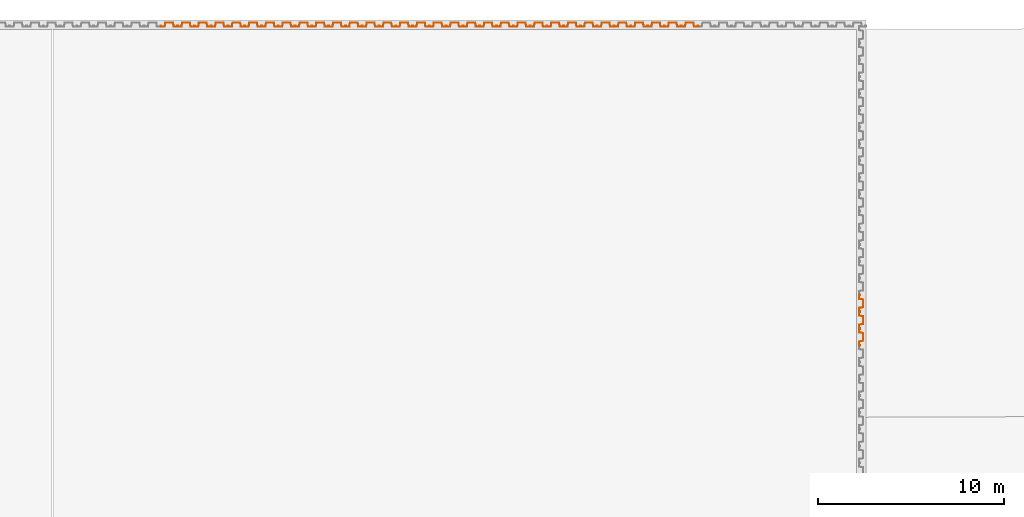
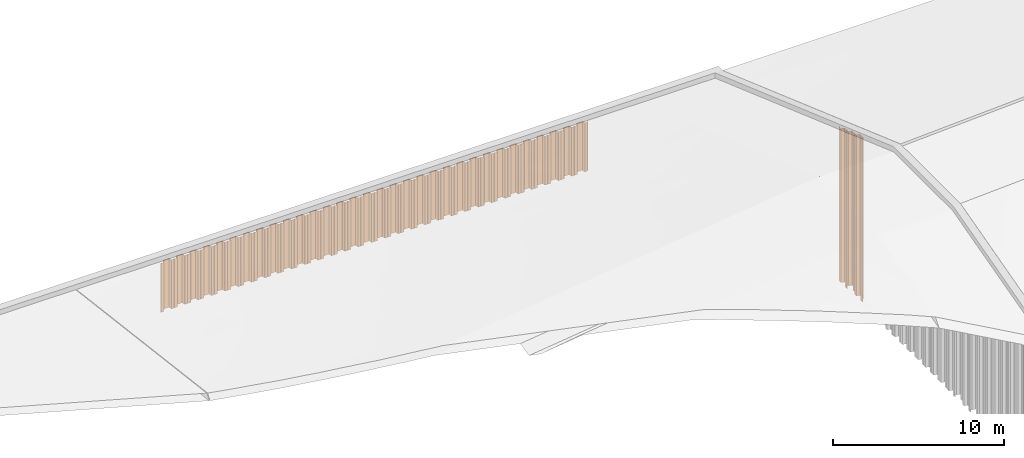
# One storey, part 28 of 32: 35 proxies.
"""IFC2X3 building model written with IfcOpenShell, lengths in millimetres."""

import ifcopenshell
import ifcopenshell.guid

model = None  # the IFC model being written
_history = None  # IfcOwnerHistory: only IFC2X3 demands one
_inside = {}  # id of a spatial element -> (the spatial element, [elements in it])
_under = {}  # id of a project, library or spatial element -> (it, [spatial elements below it])
_declared = {}  # id of a project -> (the project, [libraries it declares])
_typed = {}  # id of a type object -> (the type object, [elements of that type])
_made_of = {}  # id of a material, layer set ... -> (it, [elements and type objects made of it])


def new_model(schema):
    """Start an empty IFC model of exactly this schema.

    Asked for "IFC4X3", IfcOpenShell would pick the latest addendum, in which some entities
    have other attributes; the version numbers below select the first issue.
    IFC2X3 requires an IfcOwnerHistory on every rooted entity: one is made here for all.
    """
    global model, _history
    if schema == "IFC4X3":
        model = ifcopenshell.file(schema_version=(4, 3, 0, 0))
    else:
        model = ifcopenshell.file(schema=schema)
    _inside.clear()
    _under.clear()
    _declared.clear()
    _typed.clear()
    _made_of.clear()
    _history = None
    if model.schema == "IFC2X3":
        org = make("IfcOrganization", Name="unknown")
        user = make(
            "IfcPersonAndOrganization",
            ThePerson=make("IfcPerson", FamilyName="unknown"),
            TheOrganization=org,
        )
        app = make(
            "IfcApplication",
            ApplicationDeveloper=org,
            Version="unknown",
            ApplicationFullName="unknown",
            ApplicationIdentifier="unknown",
        )
        _history = make(
            "IfcOwnerHistory",
            OwningUser=user,
            OwningApplication=app,
            ChangeAction="ADDED",
            CreationDate=0,
        )
    return model


def make(cls, **values):
    """One entity of the class cls with the attributes given. An attribute that is None is left unset."""
    return model.create_entity(
        cls, **{name: value for name, value in values.items() if value is not None}
    )


def entity(cls, *values):
    """Any entity or typed value of the class cls, its attributes in the order of the schema. None: left unset."""
    e = model.create_entity(cls)
    for i, value in enumerate(values):
        if value is not None:
            e[i] = value
    return e


def rooted(cls, **values):
    """An entity with a GlobalId (a new one), such as an element, a storey or a relation."""
    return make(cls, GlobalId=ifcopenshell.guid.new(), OwnerHistory=_history, **values)


def si_unit(unit_type, name, prefix=None):
    """IfcSIUnit, for example si_unit("LENGTHUNIT", "METRE", prefix="MILLI")."""
    return make("IfcSIUnit", UnitType=unit_type, Prefix=prefix, Name=name)


def converted_unit(unit_type, name, factor, base, dimensions=None, offset=None):
    """IfcConversionBasedUnit, such as the inch: factor (a typed value) times the base unit."""
    return make(
        "IfcConversionBasedUnit"
        if offset is None
        else "IfcConversionBasedUnitWithOffset",
        ConversionOffset=offset,
        Dimensions=None
        if dimensions is None
        else entity("IfcDimensionalExponents", *dimensions),
        UnitType=unit_type,
        Name=name,
        ConversionFactor=make(
            "IfcMeasureWithUnit", ValueComponent=factor, UnitComponent=base
        ),
    )


def derived_unit(unit_type, elements):
    """IfcDerivedUnit: a product of units, each with its exponent."""
    return make(
        "IfcDerivedUnit",
        Elements=[
            make("IfcDerivedUnitElement", Unit=unit, Exponent=power)
            for unit, power in elements
        ],
        UnitType=unit_type,
    )


def assignment(units):
    """IfcUnitAssignment: the units of a project."""
    return None if units is None else make("IfcUnitAssignment", Units=units)


def point(xyz):
    """IfcCartesianPoint."""
    return None if xyz is None else make("IfcCartesianPoint", Coordinates=xyz)


def direction(xyz):
    """IfcDirection."""
    return None if xyz is None else make("IfcDirection", DirectionRatios=xyz)


def frame(location, z_axis=None, x_axis=None):
    """IfcAxis2Placement3D, a coordinate frame: its origin and axes. An axis left out is left unset."""
    return make(
        "IfcAxis2Placement3D",
        Location=point(location),
        Axis=direction(z_axis),
        RefDirection=direction(x_axis),
    )


def frame_2d(location, x_axis=None):
    """IfcAxis2Placement2D, a coordinate frame in the plane: its origin and x axis."""
    return make(
        "IfcAxis2Placement2D", Location=point(location), RefDirection=direction(x_axis)
    )


def origin():
    """The frame at (0, 0, 0) with its axes left unset."""
    return frame((0.0, 0.0, 0.0))


def place(relative_to, where):
    """IfcLocalPlacement: puts the frame where relative to a parent placement (None: the world)."""
    return make(
        "IfcLocalPlacement", PlacementRelTo=relative_to, RelativePlacement=where
    )


def context(
    kind, dimensions, precision=None, world=None, true_north=None, identifier=None
):
    """IfcGeometricRepresentationContext, for example the 3D "Model" context."""
    return make(
        "IfcGeometricRepresentationContext",
        ContextIdentifier=identifier,
        ContextType=kind,
        CoordinateSpaceDimension=dimensions,
        Precision=precision,
        WorldCoordinateSystem=world,
        TrueNorth=true_north,
    )


def subcontext(parent, identifier, kind, view, scale=None):
    """IfcGeometricRepresentationSubContext, for example "Body" below "Model"."""
    return make(
        "IfcGeometricRepresentationSubContext",
        ContextIdentifier=identifier,
        ContextType=kind,
        ParentContext=parent,
        TargetScale=scale,
        TargetView=view,
    )


def project(units=None, contexts=None):
    """IfcProject with its units and contexts."""
    return rooted(
        "IfcProject",
        Name="project",
        RepresentationContexts=contexts,
        UnitsInContext=assignment(units),
    )


def spatial(cls, under=None, at=None, **own):
    """A site, building, storey or space (cls), placed at a placement, below another one or the project."""
    s = rooted(cls, ObjectPlacement=at, **own)
    if under is not None:
        _under.setdefault(under.id(), (under, []))[1].append(s)
    return s


def polyline(points):
    """IfcPolyline through the points."""
    return make("IfcPolyline", Points=[point(p) for p in points])


def circle_curve(where, radius):
    """IfcCircle in the frame where."""
    return make("IfcCircle", Position=where, Radius=radius)


def parameter(value):
    """IfcParameterValue: where a trimmed curve begins or ends, as a parameter of its basis curve."""
    return model.create_entity("IfcParameterValue", value)


def trimmed(basis, trim1, trim2, sense, master):
    """IfcTrimmedCurve: the piece of a basis curve between two trims."""
    return make(
        "IfcTrimmedCurve",
        BasisCurve=basis,
        Trim1=trim1,
        Trim2=trim2,
        SenseAgreement=sense,
        MasterRepresentation=master,
    )


def segment(curve, same_sense, transition):
    """IfcCompositeCurveSegment."""
    return make(
        "IfcCompositeCurveSegment",
        Transition=transition,
        SameSense=same_sense,
        ParentCurve=curve,
    )


def composite_curve(segments, self_intersect=None):
    """IfcCompositeCurve: segments joined end to end."""
    return make("IfcCompositeCurve", Segments=segments, SelfIntersect=self_intersect)


def outline(outer, holes=None, kind="AREA"):
    """IfcArbitraryClosedProfileDef: a profile drawn as a closed curve; with holes, ...WithVoids."""
    if holes is None:
        return make("IfcArbitraryClosedProfileDef", ProfileType=kind, OuterCurve=outer)
    return make(
        "IfcArbitraryProfileDefWithVoids",
        ProfileType=kind,
        OuterCurve=outer,
        InnerCurves=holes,
    )


def extrude(swept, where, along, depth):
    """IfcExtrudedAreaSolid: the profile swept, set in the frame where, extruded along a direction by depth."""
    return make(
        "IfcExtrudedAreaSolid",
        SweptArea=swept,
        Position=where,
        ExtrudedDirection=direction(along),
        Depth=depth,
    )


def shape(context_of_items, identifier, shape_type, items):
    """IfcShapeRepresentation: the items that make up one representation, for example the "Body"."""
    return make(
        "IfcShapeRepresentation",
        ContextOfItems=context_of_items,
        RepresentationIdentifier=identifier,
        RepresentationType=shape_type,
        Items=items,
    )


def source(mapping_origin, context_of_items, identifier, shape_type, items):
    """IfcRepresentationMap: a shape defined once, which mapped items show again and again."""
    return make(
        "IfcRepresentationMap",
        MappingOrigin=mapping_origin,
        MappedRepresentation=shape(context_of_items, identifier, shape_type, items),
    )


def transform(
    local_origin,
    x_axis=None,
    y_axis=None,
    z_axis=None,
    scale=None,
    scale2=None,
    scale3=None,
    uniform=True,
):
    """IfcCartesianTransformationOperator3D, or its non-uniform kind. x_axis, y_axis, z_axis: its Axis1, 2, 3."""
    if uniform:
        return make(
            "IfcCartesianTransformationOperator3D",
            Axis1=direction(x_axis),
            Axis2=direction(y_axis),
            LocalOrigin=point(local_origin),
            Scale=scale,
            Axis3=direction(z_axis),
        )
    return make(
        "IfcCartesianTransformationOperator3DnonUniform",
        Axis1=direction(x_axis),
        Axis2=direction(y_axis),
        LocalOrigin=point(local_origin),
        Scale=scale,
        Axis3=direction(z_axis),
        Scale2=scale2,
        Scale3=scale3,
    )


def mapped(mapping_source, mapping_target):
    """IfcMappedItem: shows the shape of a source again, moved by a transform."""
    return make(
        "IfcMappedItem", MappingSource=mapping_source, MappingTarget=mapping_target
    )


def made_of(thing, what):
    """Note that an element or type object is made of a material, layer set ...; save() writes the relation."""
    if what is not None:
        _made_of.setdefault(what.id(), (what, []))[1].append(thing)
    return thing


def type_object(cls, material=None, **own):
    """A type object (cls), such as IfcWallType, which elements share."""
    return made_of(rooted(cls, **own), material)


def type_shapes(of_type, sources):
    """Give a type object the sources (RepresentationMaps) that its elements show as mapped items."""
    of_type.RepresentationMaps = sources


def element(
    cls,
    number,
    at=None,
    inside=None,
    cuts=None,
    type_object=None,
    material=None,
    context=None,
    identifier="Body",
    shape_type=None,
    held_by="IfcProductDefinitionShape",
    body=None,
    shapes=None,
    **own,
):
    """One element of the class cls, such as IfcWall. Its Tag is "e" and its number.

    at: its placement. inside: the storey or other place that contains it. cuts: it is an
    opening in that element (IfcRelVoidsElement). A single representation is given by context,
    identifier, shape_type and body (its items); several are given by shapes. held_by: the class
    of the entity that holds the representations. save() writes the other relations.
    """
    e = rooted(cls, Tag="e%d" % number, ObjectPlacement=at, **own)
    if body is not None:
        shapes = [shape(context, identifier, shape_type, body)]
    if shapes is not None:
        e.Representation = make(held_by, Representations=shapes)
    if inside is not None:
        _inside.setdefault(inside.id(), (inside, []))[1].append(e)
    if cuts is not None:
        rooted(
            "IfcRelVoidsElement", RelatingBuildingElement=cuts, RelatedOpeningElement=e
        )
    if type_object is not None:
        _typed.setdefault(type_object.id(), (type_object, []))[1].append(e)
    return made_of(e, material)


def aggregate(whole, parts):
    """IfcRelAggregates: a whole, such as a stair, and the parts it consists of."""
    return rooted("IfcRelAggregates", RelatingObject=whole, RelatedObjects=parts)


def save(model, path):
    """Write the relations noted so far, then the file.

    IfcRelAggregates (storeys below a building ...), IfcRelContainedInSpatialStructure (elements
    in a storey), IfcRelDefinesByType, IfcRelAssociatesMaterial and IfcRelDeclares: one each for
    every whole, place, type object, material and project.
    """
    for whole, parts in _under.values():
        aggregate(whole, parts)
    for where, things in _inside.values():
        rooted(
            "IfcRelContainedInSpatialStructure",
            RelatedElements=things,
            RelatingStructure=where,
        )
    for kind, things in _typed.values():
        rooted("IfcRelDefinesByType", RelatedObjects=things, RelatingType=kind)
    for what, things in _made_of.values():
        rooted("IfcRelAssociatesMaterial", RelatedObjects=things, RelatingMaterial=what)
    for by, libraries in _declared.values():
        rooted("IfcRelDeclares", RelatingContext=by, RelatedDefinitions=libraries)
    model.write(path)


model = new_model("IFC2X3")

# Units and contexts
model_context = context("Model", 3, precision=0.01, world=origin(), true_north=direction((6.12303176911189e-17, 1.0)))
body_context = subcontext(model_context, "Body", "Model", "MODEL_VIEW")
ifc_project = project(units=[si_unit("LENGTHUNIT", "METRE", prefix="MILLI"), si_unit("AREAUNIT", "SQUARE_METRE"), si_unit("VOLUMEUNIT", "CUBIC_METRE"), converted_unit("PLANEANGLEUNIT", "DEGREE", entity("IfcRatioMeasure", 0.0174532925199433), si_unit("PLANEANGLEUNIT", "RADIAN"), dimensions=[0, 0, 0, 0, 0, 0, 0]), si_unit("MASSUNIT", "GRAM", prefix="KILO"), derived_unit("MASSDENSITYUNIT", [(si_unit("MASSUNIT", "GRAM", prefix="KILO"), 1), (si_unit("LENGTHUNIT", "METRE"), -3)]), si_unit("TIMEUNIT", "SECOND"), si_unit("FREQUENCYUNIT", "HERTZ"), si_unit("THERMODYNAMICTEMPERATUREUNIT", "DEGREE_CELSIUS"), derived_unit("THERMALTRANSMITTANCEUNIT", [(si_unit("MASSUNIT", "GRAM", prefix="KILO"), 1), (si_unit("THERMODYNAMICTEMPERATUREUNIT", "KELVIN"), -1), (si_unit("TIMEUNIT", "SECOND"), -3)]), derived_unit("VOLUMETRICFLOWRATEUNIT", [(si_unit("LENGTHUNIT", "METRE"), 3), (si_unit("TIMEUNIT", "SECOND"), -1)]), si_unit("ELECTRICCURRENTUNIT", "AMPERE"), si_unit("ELECTRICVOLTAGEUNIT", "VOLT"), si_unit("POWERUNIT", "WATT"), si_unit("FORCEUNIT", "NEWTON", prefix="KILO"), si_unit("ILLUMINANCEUNIT", "LUX"), si_unit("LUMINOUSFLUXUNIT", "LUMEN"), si_unit("LUMINOUSINTENSITYUNIT", "CANDELA"), derived_unit("USERDEFINED", [(si_unit("MASSUNIT", "GRAM", prefix="KILO"), -1), (si_unit("LENGTHUNIT", "METRE"), -2), (si_unit("TIMEUNIT", "SECOND"), 3), (si_unit("LUMINOUSFLUXUNIT", "LUMEN"), 1)]), derived_unit("LINEARVELOCITYUNIT", [(si_unit("LENGTHUNIT", "METRE"), 1), (si_unit("TIMEUNIT", "SECOND"), -1)]), si_unit("PRESSUREUNIT", "PASCAL"), derived_unit("USERDEFINED", [(si_unit("LENGTHUNIT", "METRE"), -2), (si_unit("MASSUNIT", "GRAM", prefix="KILO"), 1), (si_unit("TIMEUNIT", "SECOND"), -2)])], contexts=[model_context])

# Site, building, storey
site_placement = place(None, origin())
site = spatial("IfcSite", under=ifc_project, at=site_placement, Name="Default", CompositionType="ELEMENT")
building_placement = place(site_placement, origin())
building = spatial("IfcBuilding", under=site, at=building_placement, CompositionType="ELEMENT")
storey_placement = place(building_placement, origin())
storey = spatial("IfcBuildingStorey", under=building, at=storey_placement, Name="矢板", CompositionType="ELEMENT", Elevation=0.0)

# Proxies
building_element_proxy_type_1 = type_object("IfcBuildingElementProxyType", Name="鋼矢板10H型", PredefinedType="NOTDEFINED")
shared_shape_1 = source(origin(), body_context, "Body", "SweptSolid", [
    extrude(outline(composite_curve([segment(trimmed(circle_curve(frame_2d((85.3662976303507, 306.644432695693), x_axis=(0.422618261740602, 0.906307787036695)), 13.885714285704), [parameter(24.9999999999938)], [parameter(90.0000000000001)], True, "PARAMETER"), True, "CONTINUOUS"), segment(polyline([(72.7815666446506, 312.512789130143), (9.8129512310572, 177.476157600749)]), True, "CONTINUOUS"), segment(trimmed(circle_curve(frame_2d((29.3891994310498, 168.347603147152), x_axis=(0.422618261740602, 0.906307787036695)), 21.6), [parameter(90.0000000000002)], [parameter(168.69006752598)], True, "PARAMETER"), True, "CONTINUOUS"), segment(polyline([(16.598697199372, 150.941769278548), (175.329723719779, 34.2998683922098)]), True, "CONTINUOUS"), segment(trimmed(circle_curve(frame_2d((168.93447260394, 25.596951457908), x_axis=(0.422618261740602, 0.906307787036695)), 10.7999999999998), [parameter(270.0)], [parameter(348.690067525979)], True, "PARAMETER"), False, "CONTINUOUS"), segment(polyline([(178.722596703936, 21.0326742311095), (18.2974003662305, -323.000269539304)]), True, "CONTINUOUS"), segment(trimmed(circle_curve(frame_2d((8.50927626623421, -318.435992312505), x_axis=(0.422618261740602, 0.906307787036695)), 10.8), [parameter(191.30993247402)], [parameter(269.999999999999)], True, "PARAMETER"), False, "CONTINUOUS"), segment(polyline([(5.95324328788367, -328.929166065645), (-185.429973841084, -282.310113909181)]), True, "CONTINUOUS"), segment(trimmed(circle_curve(frame_2d((-190.542039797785, -303.296461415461), x_axis=(0.422618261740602, 0.906307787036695)), 21.6000000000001), [parameter(11.3099324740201)], [parameter(90.0000000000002)], True, "PARAMETER"), True, "CONTINUOUS"), segment(polyline([(-210.118287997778, -294.167906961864), (-290.330886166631, -466.184378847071)]), True, "CONTINUOUS"), segment(trimmed(circle_curve(frame_2d((-270.754637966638, -475.312933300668), x_axis=(0.422618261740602, 0.906307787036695)), 21.6), [parameter(90.0000000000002)], [parameter(269.999999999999)], True, "PARAMETER"), True, "CONTINUOUS"), segment(polyline([(-251.178389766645, -484.441487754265), (-249.065298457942, -479.909948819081)]), True, "CONTINUOUS"), segment(polyline([(-249.065298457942, -479.909948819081), (-258.853422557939, -475.345671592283)]), True, "CONTINUOUS"), segment(polyline([(-258.853422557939, -475.345671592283), (-260.966513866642, -479.877210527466)]), True, "CONTINUOUS"), segment(trimmed(circle_curve(frame_2d((-270.754637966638, -475.312933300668), x_axis=(0.422618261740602, 0.906307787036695)), 10.8), [parameter(90.0000000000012)], [parameter(270.0)], True, "PARAMETER"), False, "CONTINUOUS"), segment(polyline([(-280.542762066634, -470.748656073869), (-200.330163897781, -298.732184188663)]), True, "CONTINUOUS"), segment(trimmed(circle_curve(frame_2d((-190.542039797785, -303.296461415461), x_axis=(0.422618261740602, 0.906307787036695)), 10.8), [parameter(11.3099324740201)], [parameter(89.9999999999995)], True, "PARAMETER"), False, "CONTINUOUS"), segment(polyline([(-187.986006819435, -292.803287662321), (3.39721030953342, -339.422339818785)]), True, "CONTINUOUS"), segment(trimmed(circle_curve(frame_2d((8.50927626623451, -318.435992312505), x_axis=(0.422618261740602, 0.906307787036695)), 21.6), [parameter(191.30993247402)], [parameter(270.0)], True, "PARAMETER"), True, "CONTINUOUS"), segment(polyline([(28.0855244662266, -327.564546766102), (188.510720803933, 16.4683970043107)]), True, "CONTINUOUS"), segment(trimmed(circle_curve(frame_2d((168.93447260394, 25.5969514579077), x_axis=(0.422618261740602, 0.906307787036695)), 21.6), [parameter(270.0)], [parameter(348.69006752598)], True, "PARAMETER"), True, "CONTINUOUS"), segment(polyline([(181.724974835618, 43.0027853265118), (22.9939483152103, 159.644686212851)]), True, "CONTINUOUS"), segment(trimmed(circle_curve(frame_2d((29.3891994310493, 168.347603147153), x_axis=(0.422618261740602, 0.906307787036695)), 10.7999999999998), [parameter(89.9999999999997)], [parameter(168.690067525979)], True, "PARAMETER"), False, "CONTINUOUS"), segment(polyline([(19.6010753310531, 172.911880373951), (82.5696907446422, 307.948511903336)]), True, "CONTINUOUS"), segment(trimmed(circle_curve(frame_2d((85.3662976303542, 306.64443269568), x_axis=(0.422618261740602, 0.906307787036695)), 3.08571428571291), [parameter(25.0000000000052)], [parameter(90.0000000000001)], True, "PARAMETER"), False, "CONTINUOUS"), segment(polyline([(85.3662976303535, 309.730146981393), (122.220231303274, 309.730146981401)]), True, "CONTINUOUS"), segment(trimmed(circle_curve(frame_2d((122.220231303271, 323.615861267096), x_axis=(0.422618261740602, 0.906307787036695)), 13.8857142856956), [parameter(205.000000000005)], [parameter(270.0)], True, "PARAMETER"), True, "CONTINUOUS"), segment(polyline([(134.804962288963, 317.747504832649), (141.079261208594, 331.202782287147)]), True, "CONTINUOUS"), segment(trimmed(circle_curve(frame_2d((121.503013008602, 340.331336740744), x_axis=(0.422618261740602, 0.906307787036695)), 21.6), [parameter(270.0)], [parameter(90.0000000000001)], True, "PARAMETER"), True, "CONTINUOUS"), segment(polyline([(101.926764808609, 349.459891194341), (99.8136734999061, 344.928352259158)]), True, "CONTINUOUS"), segment(polyline([(99.8136734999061, 344.928352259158), (109.601797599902, 340.364075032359)]), True, "CONTINUOUS"), segment(polyline([(109.601797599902, 340.364075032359), (111.714888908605, 344.895613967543)]), True, "CONTINUOUS"), segment(trimmed(circle_curve(frame_2d((121.503013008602, 340.331336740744), x_axis=(0.422618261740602, 0.906307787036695)), 10.8), [parameter(270.0)], [parameter(89.9999999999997)], True, "PARAMETER"), False, "CONTINUOUS"), segment(polyline([(131.291137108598, 335.767059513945), (125.01683818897, 322.311782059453)]), True, "CONTINUOUS"), segment(trimmed(circle_curve(frame_2d((122.220231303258, 323.615861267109), x_axis=(0.422618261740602, 0.906307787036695)), 3.08571428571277), [parameter(204.999999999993)], [parameter(270.0)], True, "PARAMETER"), False, "CONTINUOUS"), segment(polyline([(122.220231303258, 320.530146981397), (85.3662976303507, 320.530146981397)]), True, "CONTINUOUS")], self_intersect=False)), frame((95.205667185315, -48.8888888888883, -3500.0), z_axis=(0.0, 0.0, -1.0), x_axis=(0.4226182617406, 0.906307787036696, 0.0)), (0.0, 0.0, -1.0), 3500.0),
])
type_shapes(building_element_proxy_type_1, [shared_shape_1])
for number, where in (
    (1, (139297.5, 28702.0, 7600.0)),
    (2, (138397.5, 28702.0, 7600.0)),
    (3, (137497.5, 28702.0, 7600.0)),
    (4, (136597.5, 28702.0, 7600.0)),
    (5, (135697.5, 28702.0, 7600.0)),
    (6, (134797.5, 28702.0, 7600.0)),
    (7, (133897.5, 28702.0, 7600.0)),
    (8, (132997.5, 28702.0, 7600.0)),
    (9, (132097.5, 28702.0, 7600.0)),
    (10, (131197.5, 28702.0, 7600.0)),
    (11, (130297.5, 28702.0, 7600.0)),
    (12, (129397.5, 28702.0, 7600.0)),
    (13, (128497.5, 28702.0, 7600.0)),
    (14, (127597.5, 28702.0, 7600.0)),
    (15, (126697.5, 28702.0, 7600.0)),
    (16, (125797.5, 28702.0, 7600.0)),
    (17, (124897.5, 28702.0, 7600.0)),
    (18, (123997.5, 28702.0, 7600.0)),
    (19, (123097.5, 28702.0, 7600.0)),
    (20, (122197.5, 28702.0, 7600.0)),
    (21, (121297.5, 28702.0, 7600.0)),
    (22, (120397.5, 28702.0, 7600.0)),
    (23, (119497.5, 28702.0, 7600.0)),
    (24, (118597.5, 28702.0, 7600.0)),
    (25, (117697.5, 28702.0, 7600.0)),
    (26, (116797.5, 28702.0, 7600.0)),
    (27, (115897.5, 28702.0, 7600.0)),
    (28, (114997.5, 28702.0, 7600.0)),
    (29, (114097.5, 28702.0, 7600.0)),
    (30, (113197.5, 28702.0, 7600.0)),
    (31, (112297.5, 28702.0, 7600.0)),
    (32, (111397.5, 28702.0, 7600.0)),
):
    element("IfcBuildingElementProxy", number, at=place(storey_placement, frame(where)), inside=storey, type_object=building_element_proxy_type_1, Name="鋼矢板10H型:鋼矢板10H型", ObjectType="鋼矢板10H型:鋼矢板10H型", context=body_context, shape_type="MappedRepresentation", body=[
        mapped(shared_shape_1, transform((0.0, 0.0, 0.0), scale=1.0)),
    ])
building_element_proxy_type_2 = type_object("IfcBuildingElementProxyType", Name="鋼矢板10H型", PredefinedType="NOTDEFINED")
shared_shape_2 = source(origin(), body_context, "Body", "SweptSolid", [
    extrude(outline(composite_curve([segment(trimmed(circle_curve(frame_2d((85.3662976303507, 306.644432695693), x_axis=(0.422618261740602, 0.906307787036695)), 13.885714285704), [parameter(24.9999999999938)], [parameter(90.0000000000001)], True, "PARAMETER"), True, "CONTINUOUS"), segment(polyline([(72.7815666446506, 312.512789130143), (9.8129512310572, 177.476157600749)]), True, "CONTINUOUS"), segment(trimmed(circle_curve(frame_2d((29.3891994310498, 168.347603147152), x_axis=(0.422618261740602, 0.906307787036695)), 21.6), [parameter(90.0000000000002)], [parameter(168.69006752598)], True, "PARAMETER"), True, "CONTINUOUS"), segment(polyline([(16.598697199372, 150.941769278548), (175.329723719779, 34.2998683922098)]), True, "CONTINUOUS"), segment(trimmed(circle_curve(frame_2d((168.93447260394, 25.596951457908), x_axis=(0.422618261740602, 0.906307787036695)), 10.7999999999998), [parameter(270.0)], [parameter(348.690067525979)], True, "PARAMETER"), False, "CONTINUOUS"), segment(polyline([(178.722596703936, 21.0326742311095), (18.2974003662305, -323.000269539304)]), True, "CONTINUOUS"), segment(trimmed(circle_curve(frame_2d((8.50927626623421, -318.435992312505), x_axis=(0.422618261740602, 0.906307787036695)), 10.8), [parameter(191.30993247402)], [parameter(269.999999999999)], True, "PARAMETER"), False, "CONTINUOUS"), segment(polyline([(5.95324328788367, -328.929166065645), (-185.429973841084, -282.310113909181)]), True, "CONTINUOUS"), segment(trimmed(circle_curve(frame_2d((-190.542039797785, -303.296461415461), x_axis=(0.422618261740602, 0.906307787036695)), 21.6000000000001), [parameter(11.3099324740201)], [parameter(90.0000000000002)], True, "PARAMETER"), True, "CONTINUOUS"), segment(polyline([(-210.118287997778, -294.167906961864), (-290.330886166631, -466.184378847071)]), True, "CONTINUOUS"), segment(trimmed(circle_curve(frame_2d((-270.754637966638, -475.312933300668), x_axis=(0.422618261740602, 0.906307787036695)), 21.6), [parameter(90.0000000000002)], [parameter(269.999999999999)], True, "PARAMETER"), True, "CONTINUOUS"), segment(polyline([(-251.178389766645, -484.441487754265), (-249.065298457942, -479.909948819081)]), True, "CONTINUOUS"), segment(polyline([(-249.065298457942, -479.909948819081), (-258.853422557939, -475.345671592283)]), True, "CONTINUOUS"), segment(polyline([(-258.853422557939, -475.345671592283), (-260.966513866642, -479.877210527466)]), True, "CONTINUOUS"), segment(trimmed(circle_curve(frame_2d((-270.754637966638, -475.312933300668), x_axis=(0.422618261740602, 0.906307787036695)), 10.8), [parameter(90.0000000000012)], [parameter(270.0)], True, "PARAMETER"), False, "CONTINUOUS"), segment(polyline([(-280.542762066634, -470.748656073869), (-200.330163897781, -298.732184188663)]), True, "CONTINUOUS"), segment(trimmed(circle_curve(frame_2d((-190.542039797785, -303.296461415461), x_axis=(0.422618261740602, 0.906307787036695)), 10.8), [parameter(11.3099324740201)], [parameter(89.9999999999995)], True, "PARAMETER"), False, "CONTINUOUS"), segment(polyline([(-187.986006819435, -292.803287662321), (3.39721030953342, -339.422339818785)]), True, "CONTINUOUS"), segment(trimmed(circle_curve(frame_2d((8.50927626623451, -318.435992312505), x_axis=(0.422618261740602, 0.906307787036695)), 21.6), [parameter(191.30993247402)], [parameter(270.0)], True, "PARAMETER"), True, "CONTINUOUS"), segment(polyline([(28.0855244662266, -327.564546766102), (188.510720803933, 16.4683970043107)]), True, "CONTINUOUS"), segment(trimmed(circle_curve(frame_2d((168.93447260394, 25.5969514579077), x_axis=(0.422618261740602, 0.906307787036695)), 21.6), [parameter(270.0)], [parameter(348.69006752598)], True, "PARAMETER"), True, "CONTINUOUS"), segment(polyline([(181.724974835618, 43.0027853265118), (22.9939483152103, 159.644686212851)]), True, "CONTINUOUS"), segment(trimmed(circle_curve(frame_2d((29.3891994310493, 168.347603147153), x_axis=(0.422618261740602, 0.906307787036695)), 10.7999999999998), [parameter(89.9999999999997)], [parameter(168.690067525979)], True, "PARAMETER"), False, "CONTINUOUS"), segment(polyline([(19.6010753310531, 172.911880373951), (82.5696907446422, 307.948511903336)]), True, "CONTINUOUS"), segment(trimmed(circle_curve(frame_2d((85.3662976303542, 306.64443269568), x_axis=(0.422618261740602, 0.906307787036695)), 3.08571428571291), [parameter(25.0000000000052)], [parameter(90.0000000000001)], True, "PARAMETER"), False, "CONTINUOUS"), segment(polyline([(85.3662976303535, 309.730146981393), (122.220231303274, 309.730146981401)]), True, "CONTINUOUS"), segment(trimmed(circle_curve(frame_2d((122.220231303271, 323.615861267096), x_axis=(0.422618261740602, 0.906307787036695)), 13.8857142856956), [parameter(205.000000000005)], [parameter(270.0)], True, "PARAMETER"), True, "CONTINUOUS"), segment(polyline([(134.804962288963, 317.747504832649), (141.079261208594, 331.202782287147)]), True, "CONTINUOUS"), segment(trimmed(circle_curve(frame_2d((121.503013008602, 340.331336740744), x_axis=(0.422618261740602, 0.906307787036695)), 21.6), [parameter(270.0)], [parameter(90.0000000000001)], True, "PARAMETER"), True, "CONTINUOUS"), segment(polyline([(101.926764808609, 349.459891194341), (99.8136734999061, 344.928352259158)]), True, "CONTINUOUS"), segment(polyline([(99.8136734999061, 344.928352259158), (109.601797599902, 340.364075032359)]), True, "CONTINUOUS"), segment(polyline([(109.601797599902, 340.364075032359), (111.714888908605, 344.895613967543)]), True, "CONTINUOUS"), segment(trimmed(circle_curve(frame_2d((121.503013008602, 340.331336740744), x_axis=(0.422618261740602, 0.906307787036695)), 10.8), [parameter(270.0)], [parameter(89.9999999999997)], True, "PARAMETER"), False, "CONTINUOUS"), segment(polyline([(131.291137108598, 335.767059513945), (125.01683818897, 322.311782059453)]), True, "CONTINUOUS"), segment(trimmed(circle_curve(frame_2d((122.220231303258, 323.615861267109), x_axis=(0.422618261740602, 0.906307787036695)), 3.08571428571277), [parameter(204.999999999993)], [parameter(270.0)], True, "PARAMETER"), False, "CONTINUOUS"), segment(polyline([(122.220231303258, 320.530146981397), (85.3662976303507, 320.530146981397)]), True, "CONTINUOUS")], self_intersect=False)), frame((95.205667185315, -48.8888888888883, -11000.0), z_axis=(0.0, 0.0, -1.0), x_axis=(0.4226182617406, 0.906307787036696, 0.0)), (0.0, 0.0, -1.0), 11000.0),
])
type_shapes(building_element_proxy_type_2, [shared_shape_2])
for number, where, z_axis, x_axis in (
    (33, (148500.0, 13751.0, 12949.0), (0.0, 0.0, 1.0), (0.0, -1.0, 0.0)),
    (34, (148500.0, 12851.0, 13267.0), (0.0, 0.0, 1.0), (0.0, -1.0, 0.0)),
):
    element("IfcBuildingElementProxy", number, at=place(storey_placement, frame(where, z_axis=z_axis, x_axis=x_axis)), inside=storey, type_object=building_element_proxy_type_2, Name="鋼矢板10H型:鋼矢板10H型", ObjectType="鋼矢板10H型:鋼矢板10H型", context=body_context, shape_type="MappedRepresentation", body=[
        mapped(shared_shape_2, transform((0.0, 0.0, 0.0), scale=1.0)),
    ])
building_element_proxy_type_3 = type_object("IfcBuildingElementProxyType", Name="鋼矢板10H型", PredefinedType="NOTDEFINED")
shared_shape_3 = source(origin(), body_context, "Body", "SweptSolid", [
    extrude(outline(composite_curve([segment(trimmed(circle_curve(frame_2d((85.3662976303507, 306.644432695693), x_axis=(0.422618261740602, 0.906307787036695)), 13.885714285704), [parameter(24.9999999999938)], [parameter(90.0000000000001)], True, "PARAMETER"), True, "CONTINUOUS"), segment(polyline([(72.7815666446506, 312.512789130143), (9.8129512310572, 177.476157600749)]), True, "CONTINUOUS"), segment(trimmed(circle_curve(frame_2d((29.3891994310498, 168.347603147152), x_axis=(0.422618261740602, 0.906307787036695)), 21.6), [parameter(90.0000000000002)], [parameter(168.69006752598)], True, "PARAMETER"), True, "CONTINUOUS"), segment(polyline([(16.598697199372, 150.941769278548), (175.329723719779, 34.2998683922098)]), True, "CONTINUOUS"), segment(trimmed(circle_curve(frame_2d((168.93447260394, 25.596951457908), x_axis=(0.422618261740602, 0.906307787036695)), 10.7999999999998), [parameter(270.0)], [parameter(348.690067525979)], True, "PARAMETER"), False, "CONTINUOUS"), segment(polyline([(178.722596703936, 21.0326742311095), (18.2974003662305, -323.000269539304)]), True, "CONTINUOUS"), segment(trimmed(circle_curve(frame_2d((8.50927626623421, -318.435992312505), x_axis=(0.422618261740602, 0.906307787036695)), 10.8), [parameter(191.30993247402)], [parameter(269.999999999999)], True, "PARAMETER"), False, "CONTINUOUS"), segment(polyline([(5.95324328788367, -328.929166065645), (-185.429973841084, -282.310113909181)]), True, "CONTINUOUS"), segment(trimmed(circle_curve(frame_2d((-190.542039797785, -303.296461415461), x_axis=(0.422618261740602, 0.906307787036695)), 21.6000000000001), [parameter(11.3099324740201)], [parameter(90.0000000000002)], True, "PARAMETER"), True, "CONTINUOUS"), segment(polyline([(-210.118287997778, -294.167906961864), (-290.330886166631, -466.184378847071)]), True, "CONTINUOUS"), segment(trimmed(circle_curve(frame_2d((-270.754637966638, -475.312933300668), x_axis=(0.422618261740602, 0.906307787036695)), 21.6), [parameter(90.0000000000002)], [parameter(269.999999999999)], True, "PARAMETER"), True, "CONTINUOUS"), segment(polyline([(-251.178389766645, -484.441487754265), (-249.065298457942, -479.909948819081)]), True, "CONTINUOUS"), segment(polyline([(-249.065298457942, -479.909948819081), (-258.853422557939, -475.345671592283)]), True, "CONTINUOUS"), segment(polyline([(-258.853422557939, -475.345671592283), (-260.966513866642, -479.877210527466)]), True, "CONTINUOUS"), segment(trimmed(circle_curve(frame_2d((-270.754637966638, -475.312933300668), x_axis=(0.422618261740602, 0.906307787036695)), 10.8), [parameter(90.0000000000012)], [parameter(270.0)], True, "PARAMETER"), False, "CONTINUOUS"), segment(polyline([(-280.542762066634, -470.748656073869), (-200.330163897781, -298.732184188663)]), True, "CONTINUOUS"), segment(trimmed(circle_curve(frame_2d((-190.542039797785, -303.296461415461), x_axis=(0.422618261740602, 0.906307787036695)), 10.8), [parameter(11.3099324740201)], [parameter(89.9999999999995)], True, "PARAMETER"), False, "CONTINUOUS"), segment(polyline([(-187.986006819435, -292.803287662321), (3.39721030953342, -339.422339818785)]), True, "CONTINUOUS"), segment(trimmed(circle_curve(frame_2d((8.50927626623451, -318.435992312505), x_axis=(0.422618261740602, 0.906307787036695)), 21.6), [parameter(191.30993247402)], [parameter(270.0)], True, "PARAMETER"), True, "CONTINUOUS"), segment(polyline([(28.0855244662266, -327.564546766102), (188.510720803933, 16.4683970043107)]), True, "CONTINUOUS"), segment(trimmed(circle_curve(frame_2d((168.93447260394, 25.5969514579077), x_axis=(0.422618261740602, 0.906307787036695)), 21.6), [parameter(270.0)], [parameter(348.69006752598)], True, "PARAMETER"), True, "CONTINUOUS"), segment(polyline([(181.724974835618, 43.0027853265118), (22.9939483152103, 159.644686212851)]), True, "CONTINUOUS"), segment(trimmed(circle_curve(frame_2d((29.3891994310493, 168.347603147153), x_axis=(0.422618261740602, 0.906307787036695)), 10.7999999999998), [parameter(89.9999999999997)], [parameter(168.690067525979)], True, "PARAMETER"), False, "CONTINUOUS"), segment(polyline([(19.6010753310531, 172.911880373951), (82.5696907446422, 307.948511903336)]), True, "CONTINUOUS"), segment(trimmed(circle_curve(frame_2d((85.3662976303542, 306.64443269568), x_axis=(0.422618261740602, 0.906307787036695)), 3.08571428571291), [parameter(25.0000000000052)], [parameter(90.0000000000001)], True, "PARAMETER"), False, "CONTINUOUS"), segment(polyline([(85.3662976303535, 309.730146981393), (122.220231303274, 309.730146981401)]), True, "CONTINUOUS"), segment(trimmed(circle_curve(frame_2d((122.220231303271, 323.615861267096), x_axis=(0.422618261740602, 0.906307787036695)), 13.8857142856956), [parameter(205.000000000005)], [parameter(270.0)], True, "PARAMETER"), True, "CONTINUOUS"), segment(polyline([(134.804962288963, 317.747504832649), (141.079261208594, 331.202782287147)]), True, "CONTINUOUS"), segment(trimmed(circle_curve(frame_2d((121.503013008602, 340.331336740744), x_axis=(0.422618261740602, 0.906307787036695)), 21.6), [parameter(270.0)], [parameter(90.0000000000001)], True, "PARAMETER"), True, "CONTINUOUS"), segment(polyline([(101.926764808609, 349.459891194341), (99.8136734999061, 344.928352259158)]), True, "CONTINUOUS"), segment(polyline([(99.8136734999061, 344.928352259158), (109.601797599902, 340.364075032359)]), True, "CONTINUOUS"), segment(polyline([(109.601797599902, 340.364075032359), (111.714888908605, 344.895613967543)]), True, "CONTINUOUS"), segment(trimmed(circle_curve(frame_2d((121.503013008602, 340.331336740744), x_axis=(0.422618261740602, 0.906307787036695)), 10.8), [parameter(270.0)], [parameter(89.9999999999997)], True, "PARAMETER"), False, "CONTINUOUS"), segment(polyline([(131.291137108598, 335.767059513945), (125.01683818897, 322.311782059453)]), True, "CONTINUOUS"), segment(trimmed(circle_curve(frame_2d((122.220231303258, 323.615861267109), x_axis=(0.422618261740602, 0.906307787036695)), 3.08571428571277), [parameter(204.999999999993)], [parameter(270.0)], True, "PARAMETER"), False, "CONTINUOUS"), segment(polyline([(122.220231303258, 320.530146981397), (85.3662976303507, 320.530146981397)]), True, "CONTINUOUS")], self_intersect=False)), frame((95.205667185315, -48.8888888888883, -11500.0), z_axis=(0.0, 0.0, -1.0), x_axis=(0.4226182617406, 0.906307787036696, 0.0)), (0.0, 0.0, -1.0), 11500.0),
])
type_shapes(building_element_proxy_type_3, [shared_shape_3])
proxy_placement = place(storey_placement, frame((148500.0, 11951.0, 13586.0), z_axis=(0.0, 0.0, 1.0), x_axis=(0.0, -1.0, 0.0)))
element("IfcBuildingElementProxy", 35, at=proxy_placement, inside=storey, type_object=building_element_proxy_type_3, Name="鋼矢板10H型:鋼矢板10H型", ObjectType="鋼矢板10H型:鋼矢板10H型", context=body_context, shape_type="MappedRepresentation", body=[
    mapped(shared_shape_3, transform((0.0, 0.0, 0.0), scale=1.0)),
])

save(model, "model.ifc")
